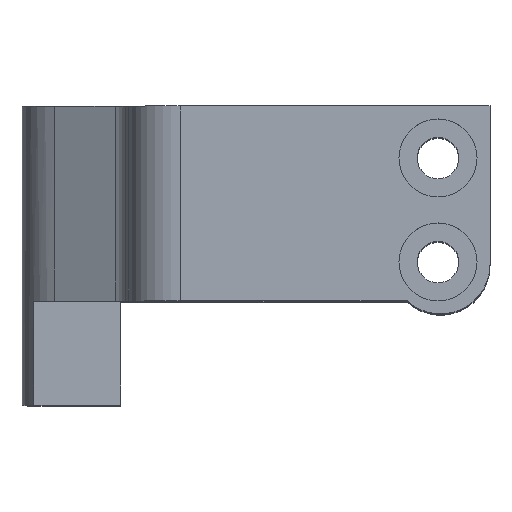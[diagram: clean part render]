
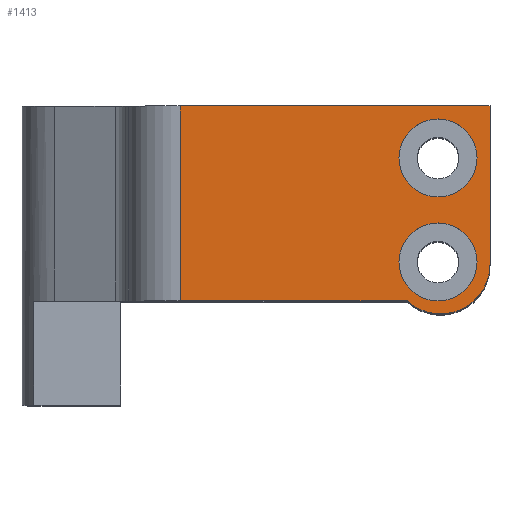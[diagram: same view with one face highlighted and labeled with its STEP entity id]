
A CAD part, top view. The second image highlights one B-rep face of the part: STEP entity #1413.
In plain terms, the highlighted planar face has unit normal (0, 0, 1).
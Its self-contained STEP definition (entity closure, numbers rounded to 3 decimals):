
#29=FACE_BOUND('',#228,.T.);
#30=FACE_BOUND('',#229,.T.);
#68=CIRCLE('',#1529,3.8);
#69=CIRCLE('',#1530,3.);
#70=CIRCLE('',#1531,3.);
#137=FACE_OUTER_BOUND('',#227,.T.);
#227=EDGE_LOOP('',(#1072,#1073,#1074,#1075,#1076));
#228=EDGE_LOOP('',(#1077));
#229=EDGE_LOOP('',(#1078));
#324=LINE('',#2090,#474);
#341=LINE('',#2140,#491);
#375=LINE('',#2215,#525);
#379=LINE('',#2229,#529);
#474=VECTOR('',#1670,10.);
#491=VECTOR('',#1707,10.);
#525=VECTOR('',#1761,10.);
#529=VECTOR('',#1777,10.);
#627=VERTEX_POINT('',#2087);
#628=VERTEX_POINT('',#2089);
#650=VERTEX_POINT('',#2137);
#651=VERTEX_POINT('',#2139);
#686=VERTEX_POINT('',#2227);
#687=VERTEX_POINT('',#2230);
#688=VERTEX_POINT('',#2232);
#766=EDGE_CURVE('',#627,#628,#324,.T.);
#791=EDGE_CURVE('',#651,#650,#341,.T.);
#829=EDGE_CURVE('',#651,#627,#375,.T.);
#836=EDGE_CURVE('',#686,#650,#68,.T.);
#837=EDGE_CURVE('',#628,#686,#379,.T.);
#838=EDGE_CURVE('',#687,#687,#69,.T.);
#839=EDGE_CURVE('',#688,#688,#70,.T.);
#1072=ORIENTED_EDGE('',*,*,#829,.F.);
#1073=ORIENTED_EDGE('',*,*,#791,.T.);
#1074=ORIENTED_EDGE('',*,*,#836,.F.);
#1075=ORIENTED_EDGE('',*,*,#837,.F.);
#1076=ORIENTED_EDGE('',*,*,#766,.F.);
#1077=ORIENTED_EDGE('',*,*,#838,.T.);
#1078=ORIENTED_EDGE('',*,*,#839,.T.);
#1355=PLANE('',#1528);
#1413=ADVANCED_FACE('',(#137,#29,#30),#1355,.T.);
#1528=AXIS2_PLACEMENT_3D('',#2226,#1773,#1774);
#1529=AXIS2_PLACEMENT_3D('',#2228,#1775,#1776);
#1530=AXIS2_PLACEMENT_3D('',#2231,#1778,#1779);
#1531=AXIS2_PLACEMENT_3D('',#2233,#1780,#1781);
#1670=DIRECTION('',(1.,0.,0.));
#1707=DIRECTION('',(1.,0.,0.));
#1761=DIRECTION('',(0.,1.,0.));
#1773=DIRECTION('center_axis',(0.,0.,
1.));
#1774=DIRECTION('ref_axis',(-1.,0.,0.));
#1775=DIRECTION('center_axis',(0.,0.,
-1.));
#1776=DIRECTION('ref_axis',(-0.707,-0.707,0.));
#1777=DIRECTION('',(0.,-1.,0.));
#1778=DIRECTION('center_axis',(0.,0.,
-1.));
#1779=DIRECTION('ref_axis',(1.,0.,0.));
#1780=DIRECTION('center_axis',(0.,0.,
-1.));
#1781=DIRECTION('ref_axis',(1.,0.,0.));
#2087=CARTESIAN_POINT('',(-3.231,4.049,189.35));
#2089=CARTESIAN_POINT('',(20.599,4.049,189.35));
#2090=CARTESIAN_POINT('',(-15.401,4.049,189.35));
#2137=CARTESIAN_POINT('',(14.23,-10.951,189.35));
#2139=CARTESIAN_POINT('',(-3.231,-10.951,189.35));
#2140=CARTESIAN_POINT('',(12.151,-10.951,189.35));
#2215=CARTESIAN_POINT('',(-3.231,4.049,189.35));
#2226=CARTESIAN_POINT('Origin',(20.599,4.049,189.35));
#2227=CARTESIAN_POINT('',(20.599,-8.151,189.35));
#2228=CARTESIAN_POINT('Origin',(16.799,-8.151,189.35));
#2229=CARTESIAN_POINT('',(20.599,4.049,189.35));
#2230=CARTESIAN_POINT('',(13.599,0.049,189.35));
#2231=CARTESIAN_POINT('Origin',(16.599,0.049,189.35));
#2232=CARTESIAN_POINT('',(13.599,-7.951,189.35));
#2233=CARTESIAN_POINT('Origin',(16.599,-7.951,189.35));
